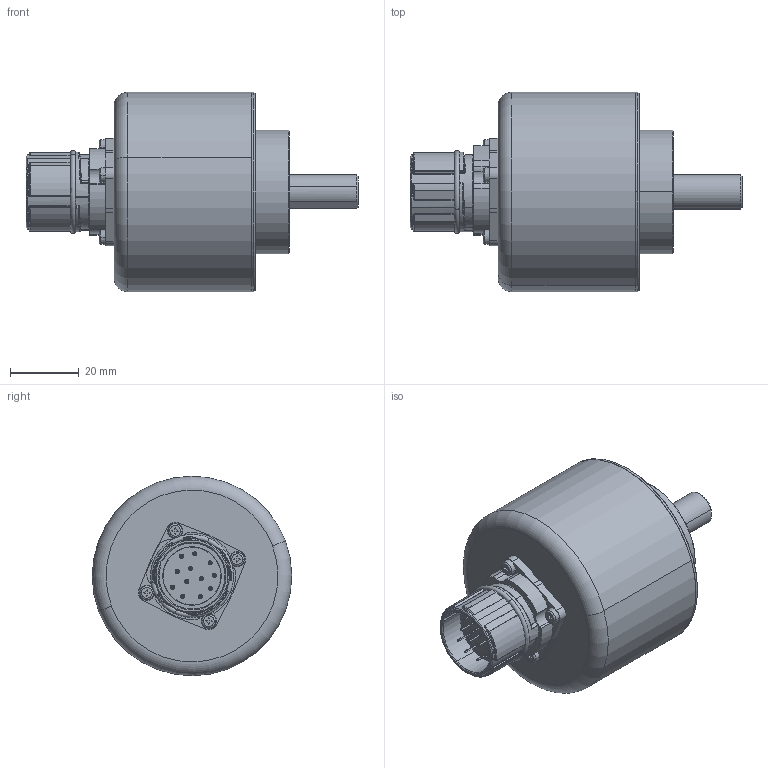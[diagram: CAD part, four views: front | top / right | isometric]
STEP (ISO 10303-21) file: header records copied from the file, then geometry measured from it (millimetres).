
FILE_DESCRIPTION (( 'STEP AP203' ), '1' );
FILE_NAME ('8.5805.12X3.XXXX.STEP', '2013-11-20T08:32:30', ( 'HeirlerN' ), ( 'Microsoft' ), 'SwSTEP 2.0', 'SolidWorks 2013', '' );
FILE_SCHEMA (( 'CONFIG_CONTROL_DESIGN' ));
Length unit declared in the file: millimetre
Products named in the file (1): 8.5805.12X3.XXXX
Bounding box: 96.55 x 58 x 58 mm (x, y, z)
Volume: 57810 mm3; surface area: 45278.7 mm2
Topology: 23 solids, 23 shells, 897 faces, 2088 edges, 1262 vertices
Faces by surface type: cylinder 415, plane 200, cone 114, torus 73, sphere 68, bspline 27
Entity records: 26435 total; most frequent: CARTESIAN_POINT 5826, DIRECTION 4728, ORIENTED_EDGE 3964, AXIS2_PLACEMENT_3D 2006, EDGE_CURVE 1982, VERTEX_POINT 1224, CIRCLE 1135, EDGE_LOOP 1064
